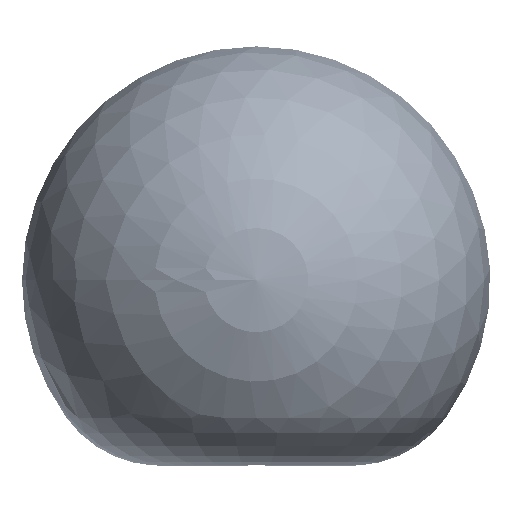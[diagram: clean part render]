
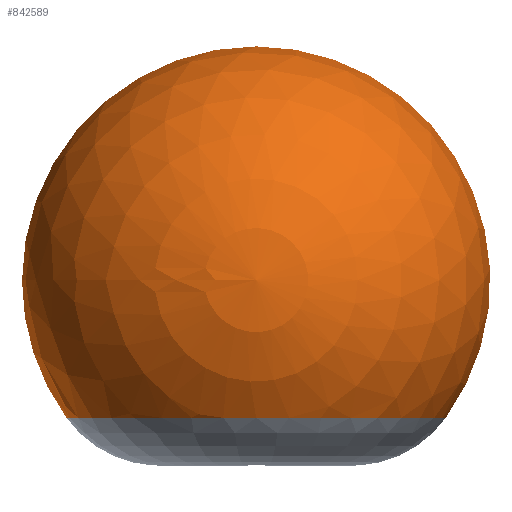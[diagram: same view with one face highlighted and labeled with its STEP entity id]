
A CAD part, top view. The second image highlights one B-rep face of the part: STEP entity #842589.
In plain terms, the highlighted spherical face has radius 1006 mm.
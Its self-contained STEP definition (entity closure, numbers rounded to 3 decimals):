
#6158 = CARTESIAN_POINT ( 'NONE',  ( 0., 1006., 0. ) ) ;
#22472 = AXIS2_PLACEMENT_3D ( 'NONE', #952472, #382440, #55357 ) ;
#55357 = DIRECTION ( 'NONE',  ( -1., 0., 0. ) ) ;
#187060 = AXIS2_PLACEMENT_3D ( 'NONE', #965754, #316576, #237369 ) ;
#232464 = AXIS2_PLACEMENT_3D ( 'NONE', #328199, #1040990, #571074 ) ;
#237369 = DIRECTION ( 'NONE',  ( 1., 0., 0. ) ) ;
#260092 = DIRECTION ( 'NONE',  ( 0., 0., 1. ) ) ;
#284609 = VERTEX_POINT ( 'NONE', #593581 ) ;
#316576 = DIRECTION ( 'NONE',  ( 0., 0., -1. ) ) ;
#328199 = CARTESIAN_POINT ( 'NONE',  ( 0., 0., 0. ) ) ;
#369090 = CARTESIAN_POINT ( 'NONE',  ( 813.871, -591.312, 0. ) ) ;
#382440 = DIRECTION ( 'NONE',  ( 0., 1., 0. ) ) ;
#390484 = FACE_OUTER_BOUND ( 'NONE', #467478, .T. ) ;
#467478 = EDGE_LOOP ( 'NONE', ( #494193, #979113, #553796 ) ) ;
#494193 = ORIENTED_EDGE ( 'NONE', *, *, #651480, .T. ) ;
#512912 = VERTEX_POINT ( 'NONE', #369090 ) ;
#545574 = CARTESIAN_POINT ( 'NONE',  ( 0., 0., 0. ) ) ;
#553796 = ORIENTED_EDGE ( 'NONE', *, *, #878406, .F. ) ;
#571074 = DIRECTION ( 'NONE',  ( -1., 0., 0. ) ) ;
#593581 = CARTESIAN_POINT ( 'NONE',  ( -813.871, -591.312, 0. ) ) ;
#612501 = CIRCLE ( 'NONE', #680407, 1006. ) ;
#636708 = VERTEX_POINT ( 'NONE', #6158 ) ;
#643861 = SPHERICAL_SURFACE ( 'NONE', #187060, 1006. ) ;
#651480 = EDGE_CURVE ( 'NONE', #512912, #284609, #747201, .T. ) ;
#680407 = AXIS2_PLACEMENT_3D ( 'NONE', #545574, #260092, #724667 ) ;
#687689 = CIRCLE ( 'NONE', #232464, 1006. ) ;
#724667 = DIRECTION ( 'NONE',  ( 1., 0., 0. ) ) ;
#747201 = CIRCLE ( 'NONE', #22472, 813.871 ) ;
#842589 = ADVANCED_FACE ( 'NONE', ( #390484 ), #643861, .T. ) ;
#878406 = EDGE_CURVE ( 'NONE', #512912, #636708, #612501, .T. ) ;
#881751 = EDGE_CURVE ( 'NONE', #284609, #636708, #687689, .T. ) ;
#952472 = CARTESIAN_POINT ( 'NONE',  ( 0., -591.312, 0. ) ) ;
#965754 = CARTESIAN_POINT ( 'NONE',  ( 0., 0., 0. ) ) ;
#979113 = ORIENTED_EDGE ( 'NONE', *, *, #881751, .T. ) ;
#1040990 = DIRECTION ( 'NONE',  ( 0., 0., -1. ) ) ;
